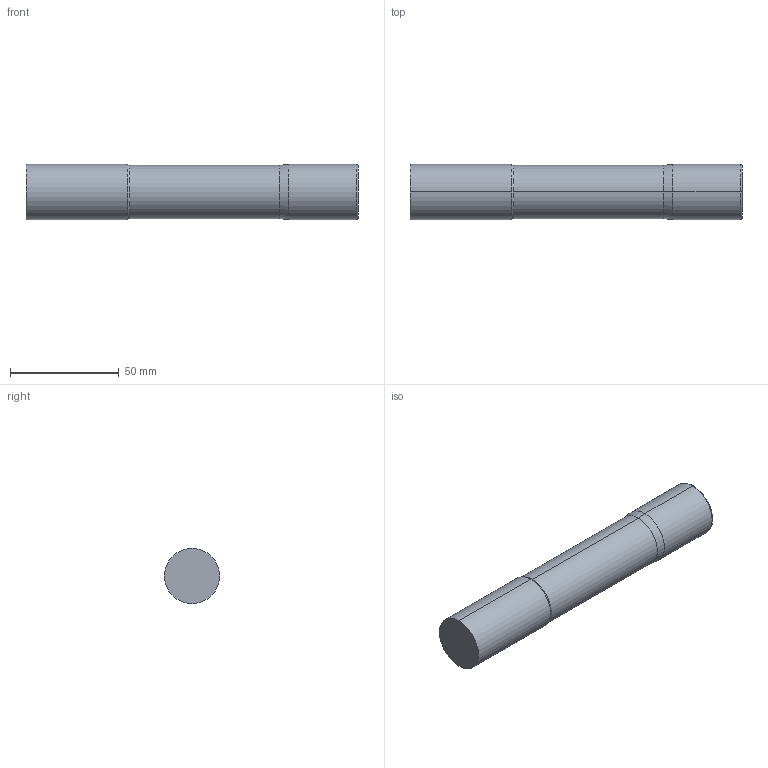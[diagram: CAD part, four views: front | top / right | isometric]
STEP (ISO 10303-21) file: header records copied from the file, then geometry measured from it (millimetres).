
FILE_DESCRIPTION (( 'STEP AP214' ), '1' );
FILE_NAME ('SSIRNX51000-030.STEP', '2025-05-28T19:59:20', ( '' ), ( '' ), 'SwSTEP 2.0', 'SolidWorks 2023', '' );
FILE_SCHEMA (( 'AUTOMOTIVE_DESIGN' ));
Length unit declared in the file: inch
Products named in the file (3): SSIRNX51000-030; SSI5 Imperial LOC ONLY_SSIRNX51000-030; SSI5 Imperial SHANK ONLY_SSIRNX51000-030
Assembly tree (2 placements, depth 2):
  SSIRNX51000-030
    SSI5 Imperial LOC ONLY_SSIRNX51000-030
    SSI5 Imperial SHANK ONLY_SSIRNX51000-030
Bounding box: 152.4 x 25.4 x 25.4 mm (x, y, z)
Volume: 74375.5 mm3; surface area: 13946.6 mm2
Topology: 2 solids, 2 shells, 16 faces, 28 edges, 16 vertices
Faces by surface type: cylinder 6, plane 4, cone 4, torus 2
Entity records: 562 total; most frequent: DIRECTION 88, CARTESIAN_POINT 65, ORIENTED_EDGE 56, AXIS2_PLACEMENT_3D 39, EDGE_CURVE 28, CIRCLE 18, FACE_OUTER_BOUND 16, EDGE_LOOP 16
